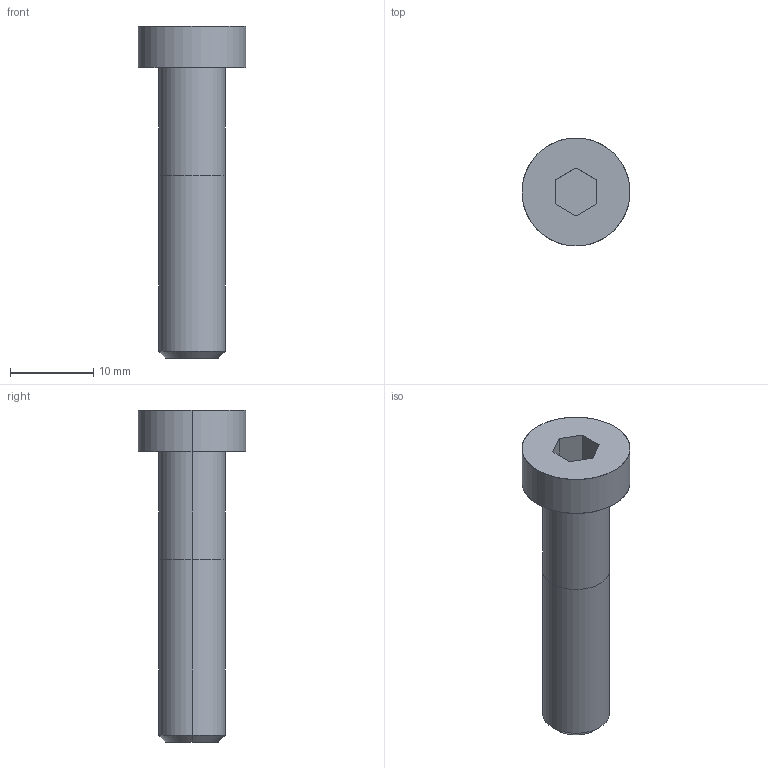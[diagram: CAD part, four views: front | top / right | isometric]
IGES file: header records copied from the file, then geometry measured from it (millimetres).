
Global section: file name: E:\UnigraphicsGraphicData\MISUMI_PRESS-PARTS\IGES\3d_cbs8-35_00455_r00.igs; native system: NX V5.0; preprocessor: UGS NX IGES V5.0; author: MISUMI; date: 20110105.160200; units: millimetre
Bounding box: 13 x 13 x 40 mm (x, y, z)
Surface area: 1403.3 mm2 (no closed solid volume)
Topology: 0 solids, 0 shells, 18 faces, 100 edges, 100 vertices
Faces by surface type: bspline 18
